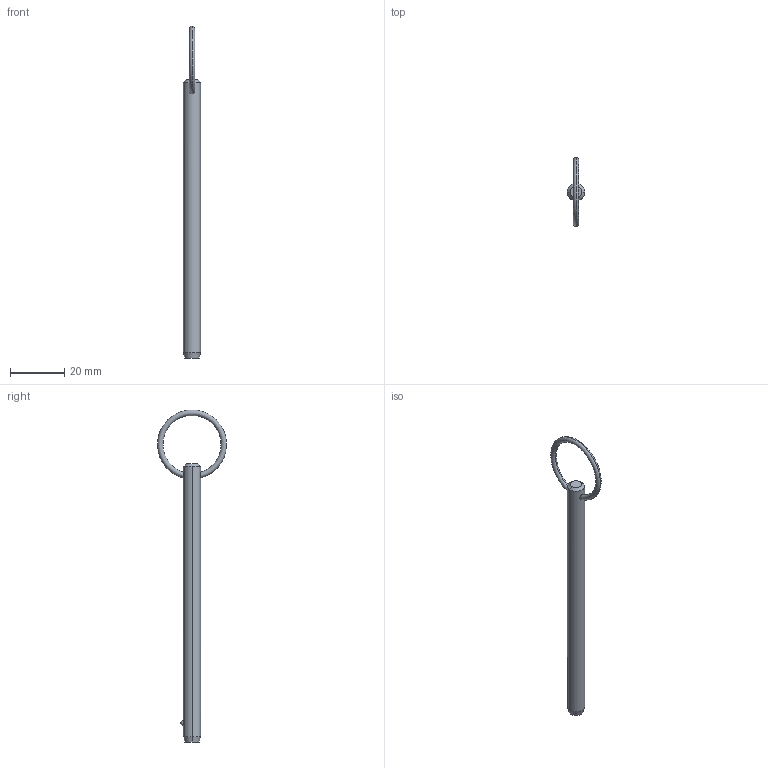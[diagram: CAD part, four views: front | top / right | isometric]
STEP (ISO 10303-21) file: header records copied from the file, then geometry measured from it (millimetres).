
FILE_DESCRIPTION (( 'STEP AP203' ), '1' );
FILE_NAME ('P1250.025-350.step', '2019-07-29T19:45:39', ( '' ), ( '' ), 'SwSTEP 2.0', 'SolidWorks 2017', '' );
FILE_SCHEMA (( 'CONFIG_CONTROL_DESIGN' ));
Length unit declared in the file: millimetre
Products named in the file (1): P1250.025-350
Bounding box: 6.35 x 25.38 x 122.22 mm (x, y, z)
Volume: 3436.6 mm3; surface area: 2500.2 mm2
Topology: 1 solids, 1 shells, 12 faces, 28 edges, 17 vertices
Faces by surface type: cone 4, torus 2, sphere 2, cylinder 2, plane 2
Entity records: 481 total; most frequent: CARTESIAN_POINT 148, DIRECTION 56, ORIENTED_EDGE 48, AXIS2_PLACEMENT_3D 25, EDGE_CURVE 24, VERTEX_POINT 15, EDGE_LOOP 15, CIRCLE 12
